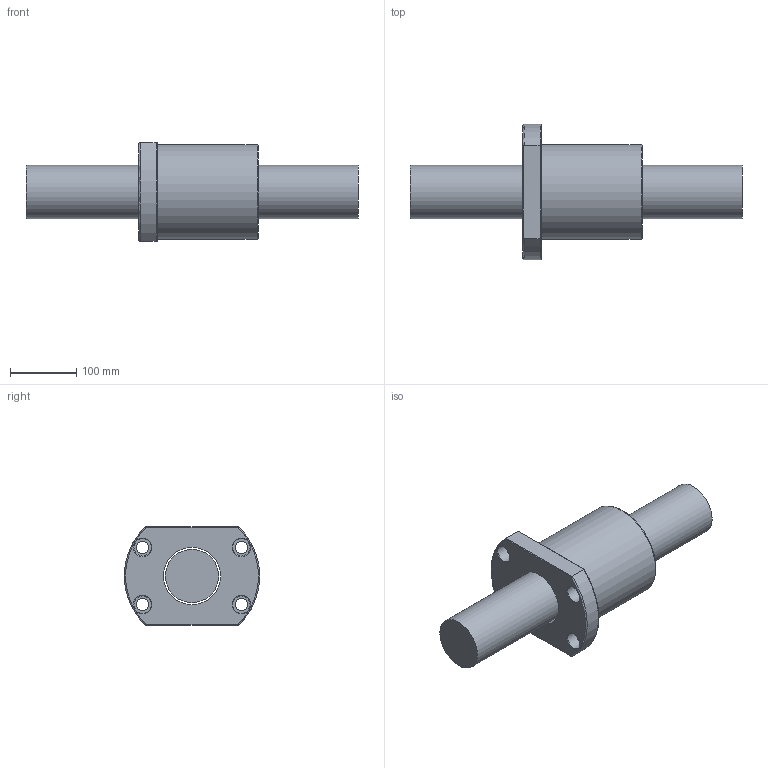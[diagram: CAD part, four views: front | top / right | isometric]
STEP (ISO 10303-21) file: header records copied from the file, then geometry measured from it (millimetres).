
FILE_DESCRIPTION (( 'STEP AP203' ), '1' );
FILE_NAME ('SFV08020D-4.8.step', '2024-05-20T03:40:39', ( '' ), ( '' ), 'SwSTEP 2.0', 'SolidWorks 2022', '' );
FILE_SCHEMA (( 'CONFIG_CONTROL_DESIGN' ));
Length unit declared in the file: millimetre
Products named in the file (1): SFV08020D-4.8
Bounding box: 500 x 204 x 148 mm (x, y, z)
Volume: 4619325.2 mm3; surface area: 318232.1 mm2
Topology: 2 solids, 2 shells, 56 faces, 134 edges, 87 vertices
Faces by surface type: cylinder 21, plane 16, cone 9, bspline 5, torus 5
Full cylindrical faces by diameter (mm): 4 x1, 7 x6, 18 x4, 26 x4, 80 x1, 86.1 x1, 143 x1
Entity records: 3534 total; most frequent: CARTESIAN_POINT 2487, DIRECTION 188, ORIENTED_EDGE 168, EDGE_LOOP 90, AXIS2_PLACEMENT_3D 87, EDGE_CURVE 84, VERTEX_POINT 68, FACE_OUTER_BOUND 64
